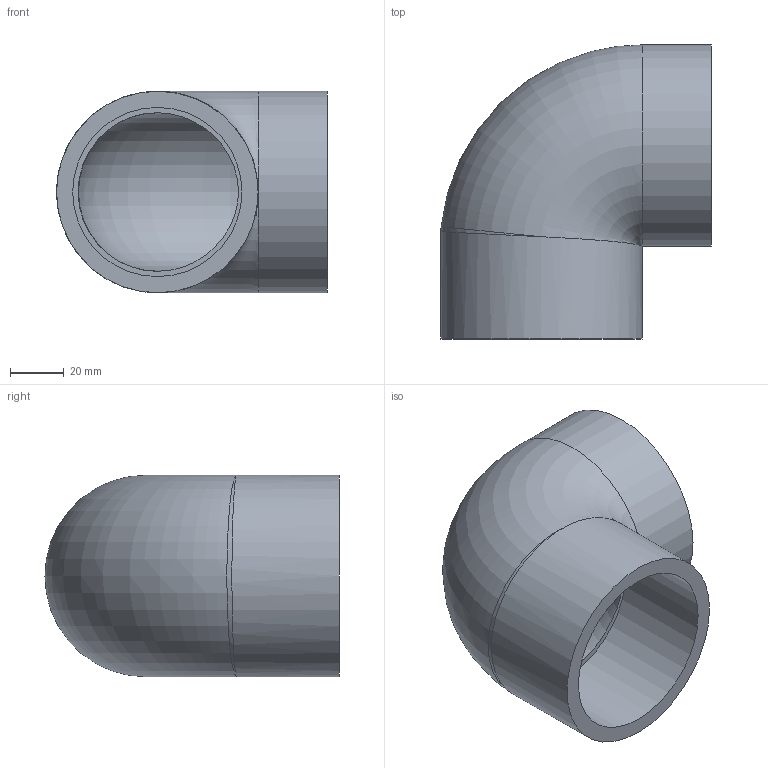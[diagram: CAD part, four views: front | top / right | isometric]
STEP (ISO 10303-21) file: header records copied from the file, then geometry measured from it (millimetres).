
FILE_DESCRIPTION(/* description */ (''),/* implementation_level */ '2;1');
FILE_NAME(/* name */ '\\FILESERVER\Comer\Comer generale\Cataloghi_Listini_Foto_dwg\Cataloghi_disegni tecnici\STP_DWG_3D_2D RACCORDI\EL52\EL52063G.stp',/* time_stamp */ '2019-07-08T11:05:22+02:00',/* author */ ('e.sacchi'),/* organization */ (''),/* preprocessor_version */ 'ST-DEVELOPER v16.13',/* originating_system */ 'Autodesk Inventor 2018',/* authorisation */ '');
FILE_SCHEMA (('AUTOMOTIVE_DESIGN { 1 0 10303 214 3 1 1 }'));
Length unit declared in the file: millimetre
Products named in the file (1): EL52063G
Bounding box: 100.8 x 109.5 x 75 mm (x, y, z)
Volume: 188393.6 mm3; surface area: 67167.4 mm2
Topology: 2 solids, 2 shells, 23 faces, 48 edges, 31 vertices
Faces by surface type: cylinder 9, plane 6, bspline 6, torus 2
Full cylindrical faces by diameter (mm): 59.61 x2, 63 x1, 75 x2
Entity records: 6272 total; most frequent: CARTESIAN_POINT 5823, ORIENTED_EDGE 76, DIRECTION 70, EDGE_CURVE 38, EDGE_LOOP 36, AXIS2_PLACEMENT_3D 35, VERTEX_POINT 28, FACE_OUTER_BOUND 23
